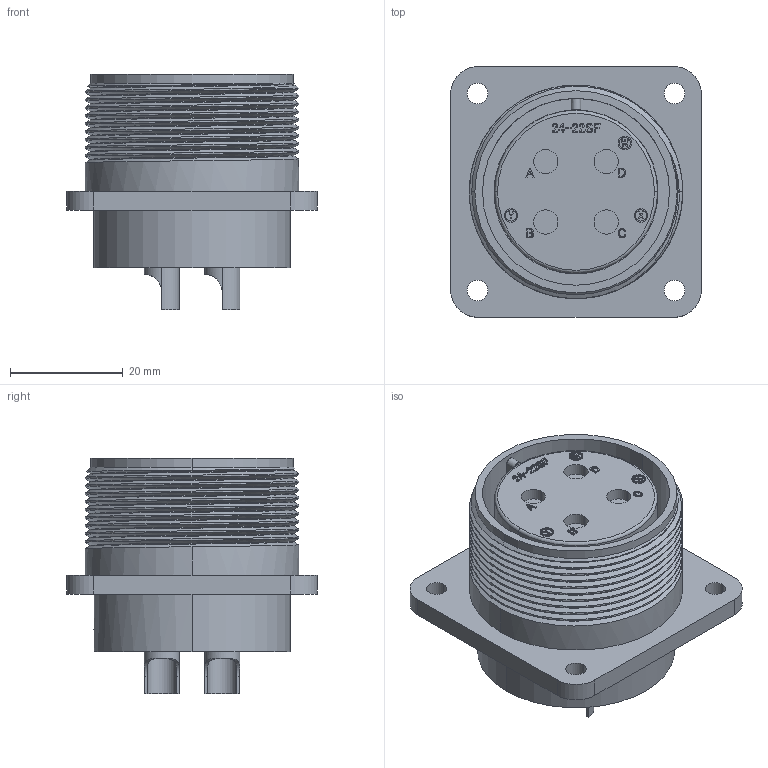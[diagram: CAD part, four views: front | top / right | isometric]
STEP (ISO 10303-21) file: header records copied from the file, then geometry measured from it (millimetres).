
FILE_DESCRIPTION (( 'STEP AP203' ), '1' );
FILE_NAME ('DMS3102A24-22S.STEP', '2018-08-31T10:51:40', ( '' ), ( '' ), 'SwSTEP 2.0', 'SolidWorks 2018', '' );
FILE_SCHEMA (( 'CONFIG_CONTROL_DESIGN' ));
Length unit declared in the file: millimetre
Products named in the file (1): DMS3102A24-22S
Bounding box: 44.45 x 44.45 x 41.85 mm (x, y, z)
Volume: 32566 mm3; surface area: 15932.9 mm2
Topology: 1 solids, 1 shells, 669 faces, 1785 edges, 1177 vertices
Faces by surface type: plane 302, bspline 229, cylinder 128, torus 7, cone 3
Entity records: 29394 total; most frequent: CARTESIAN_POINT 14182, ORIENTED_EDGE 3570, DIRECTION 2350, EDGE_CURVE 1785, VERTEX_POINT 1177, VECTOR 1050, LINE 1050, EDGE_LOOP 738
